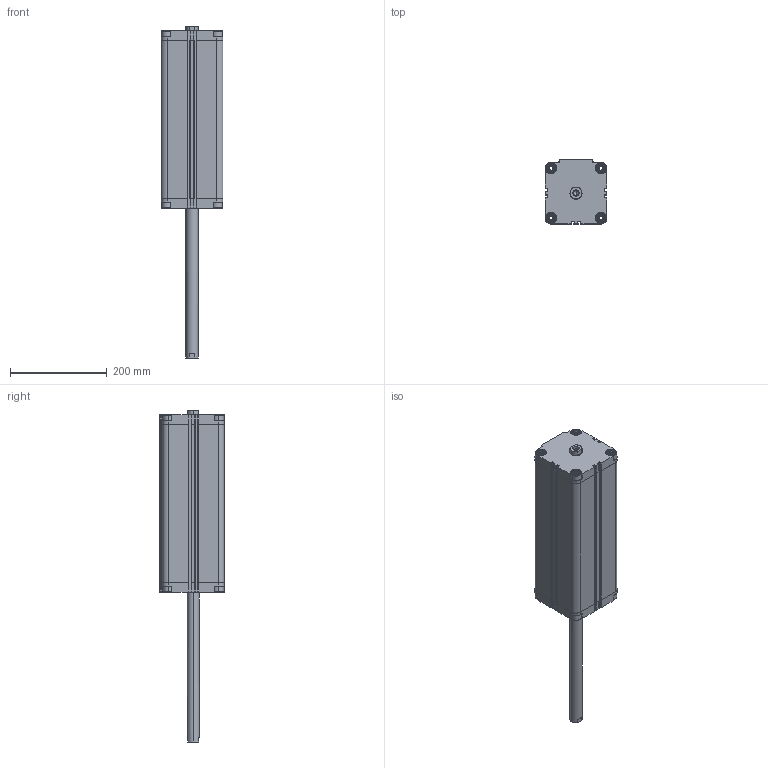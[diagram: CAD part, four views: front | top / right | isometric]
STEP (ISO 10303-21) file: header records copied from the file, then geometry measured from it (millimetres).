
FILE_DESCRIPTION (( 'STEP AP203' ), '1' );
FILE_NAME ('CDVU100-300F-P.STEP', '2020-07-24T18:44:00', ( '' ), ( '' ), 'SwSTEP 2.0', 'SolidWorks 2019', '' );
FILE_SCHEMA (( 'CONFIG_CONTROL_DESIGN' ));
Length unit declared in the file: millimetre
Products named in the file (1): CDVU100-300F-P
Bounding box: 128 x 133 x 686.5 mm (x, y, z)
Volume: 3684640.6 mm3; surface area: 508724.7 mm2
Topology: 2 solids, 2 shells, 670 faces, 1812 edges, 1188 vertices
Faces by surface type: plane 394, cylinder 212, cone 64
Entity records: 21267 total; most frequent: CARTESIAN_POINT 4239, ORIENTED_EDGE 3608, DIRECTION 3458, EDGE_CURVE 1804, VERTEX_POINT 1188, AXIS2_PLACEMENT_3D 1175, VECTOR 1108, LINE 1108
